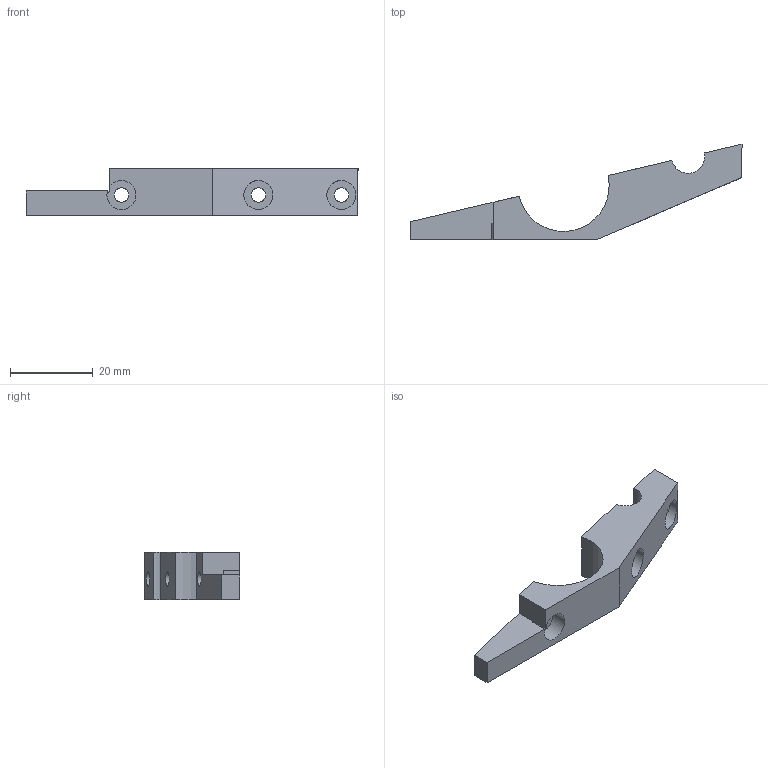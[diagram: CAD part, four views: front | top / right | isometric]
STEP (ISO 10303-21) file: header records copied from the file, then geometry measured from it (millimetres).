
FILE_DESCRIPTION(/* description */ (''),/* implementation_level */ '2;1');
FILE_NAME(/* name */ 'Z Front Right Bottom Clamp v1.step',/* time_stamp */ '2023-03-23T06:41:58-06:00',/* author */ (''),/* organization */ (''),/* preprocessor_version */ 'ST-DEVELOPER v19.2',/* originating_system */ 'Autodesk Translation Framework v11.17.0.187',/* authorisation */ '');
FILE_SCHEMA (('AUTOMOTIVE_DESIGN { 1 0 10303 214 3 1 1 }'));
Length unit declared in the file: millimetre
Products named in the file (2): Z Front Right Bottom Clamp; FR Bottom 2
Assembly tree (1 placements, depth 2):
  Z Front Right Bottom Clamp
    FR Bottom 2
Bounding box: 80 x 23.03 x 11.5 mm (x, y, z)
Volume: 5642.1 mm3; surface area: 3726 mm2
Topology: 1 solids, 1 shells, 27 faces, 65 edges, 43 vertices
Faces by surface type: plane 18, cylinder 9
Full cylindrical faces by diameter (mm): 3.5 x3, 7 x2
Entity records: 861 total; most frequent: DIRECTION 143, CARTESIAN_POINT 138, ORIENTED_EDGE 130, EDGE_CURVE 65, AXIS2_PLACEMENT_3D 48, LINE 47, VECTOR 47, VERTEX_POINT 43
